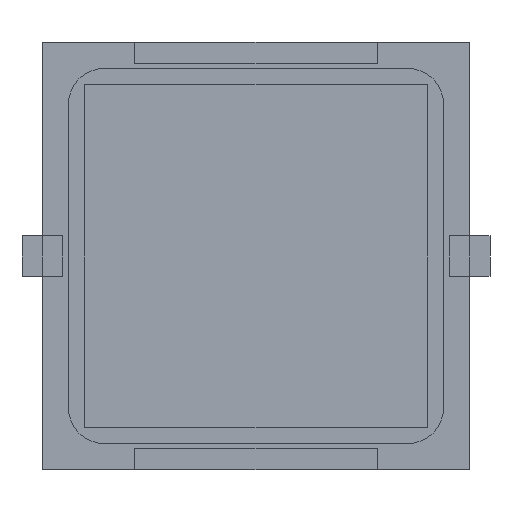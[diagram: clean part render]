
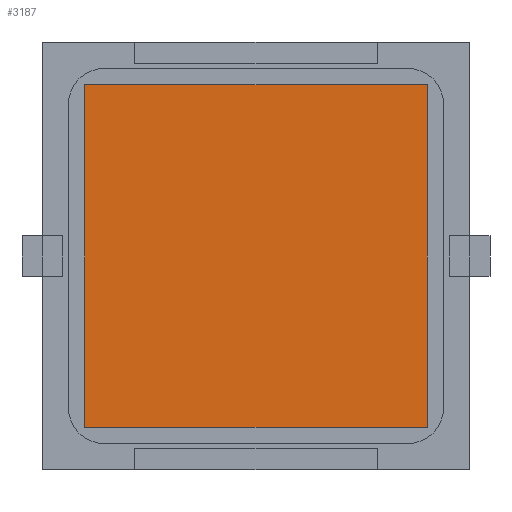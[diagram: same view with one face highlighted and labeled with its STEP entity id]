
A CAD part, front view. The second image highlights one B-rep face of the part: STEP entity #3187.
In plain terms, the highlighted planar face has unit normal (0, -1, 0).
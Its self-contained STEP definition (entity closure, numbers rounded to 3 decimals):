
#36 = EDGE_LOOP ( 'NONE', ( #227, #287, #4212, #3681 ) ) ;
#98 = CARTESIAN_POINT ( 'NONE',  ( -8.5, -0.1, -8.5 ) ) ;
#227 = ORIENTED_EDGE ( 'NONE', *, *, #1844, .F. ) ;
#239 = FACE_OUTER_BOUND ( 'NONE', #36, .T. ) ;
#287 = ORIENTED_EDGE ( 'NONE', *, *, #3326, .F. ) ;
#368 = CARTESIAN_POINT ( 'NONE',  ( 8.5, -0.1, 8.5 ) ) ;
#426 = EDGE_CURVE ( 'NONE', #995, #1297, #2404, .T. ) ;
#621 = AXIS2_PLACEMENT_3D ( 'NONE', #2465, #4510, #1157 ) ;
#634 = DIRECTION ( 'NONE',  ( 0., 0., -1. ) ) ;
#995 = VERTEX_POINT ( 'NONE', #1499 ) ;
#1033 = CARTESIAN_POINT ( 'NONE',  ( 8.5, -0.1, -8.5 ) ) ;
#1157 = DIRECTION ( 'NONE',  ( 0., 0., 1. ) ) ;
#1297 = VERTEX_POINT ( 'NONE', #368 ) ;
#1299 = VECTOR ( 'NONE', #2357, 1000. ) ;
#1393 = LINE ( 'NONE', #1033, #2147 ) ;
#1499 = CARTESIAN_POINT ( 'NONE',  ( -8.5, -0.1, 8.5 ) ) ;
#1636 = CARTESIAN_POINT ( 'NONE',  ( -8.5, -0.1, -8.5 ) ) ;
#1844 = EDGE_CURVE ( 'NONE', #4043, #995, #2452, .T. ) ;
#2147 = VECTOR ( 'NONE', #634, 1000. ) ;
#2289 = CARTESIAN_POINT ( 'NONE',  ( 8.5, -0.1, -8.5 ) ) ;
#2357 = DIRECTION ( 'NONE',  ( -1., 0., 0. ) ) ;
#2404 = LINE ( 'NONE', #4282, #3159 ) ;
#2452 = LINE ( 'NONE', #4638, #3492 ) ;
#2465 = CARTESIAN_POINT ( 'NONE',  ( -8.5, -0.1, 8.5 ) ) ;
#2514 = DIRECTION ( 'NONE',  ( 0., 0., 1. ) ) ;
#2529 = PLANE ( 'NONE',  #621 ) ;
#2773 = VERTEX_POINT ( 'NONE', #2289 ) ;
#3159 = VECTOR ( 'NONE', #3420, 1000. ) ;
#3187 = ADVANCED_FACE ( 'NONE', ( #239 ), #2529, .F. ) ;
#3326 = EDGE_CURVE ( 'NONE', #2773, #4043, #4286, .T. ) ;
#3420 = DIRECTION ( 'NONE',  ( 1., 0., 0. ) ) ;
#3492 = VECTOR ( 'NONE', #2514, 1000. ) ;
#3681 = ORIENTED_EDGE ( 'NONE', *, *, #426, .F. ) ;
#4043 = VERTEX_POINT ( 'NONE', #1636 ) ;
#4212 = ORIENTED_EDGE ( 'NONE', *, *, #4443, .F. ) ;
#4282 = CARTESIAN_POINT ( 'NONE',  ( -8.5, -0.1, 8.5 ) ) ;
#4286 = LINE ( 'NONE', #98, #1299 ) ;
#4443 = EDGE_CURVE ( 'NONE', #1297, #2773, #1393, .T. ) ;
#4510 = DIRECTION ( 'NONE',  ( 0., 1., 0. ) ) ;
#4638 = CARTESIAN_POINT ( 'NONE',  ( -8.5, -0.1, -8.5 ) ) ;
